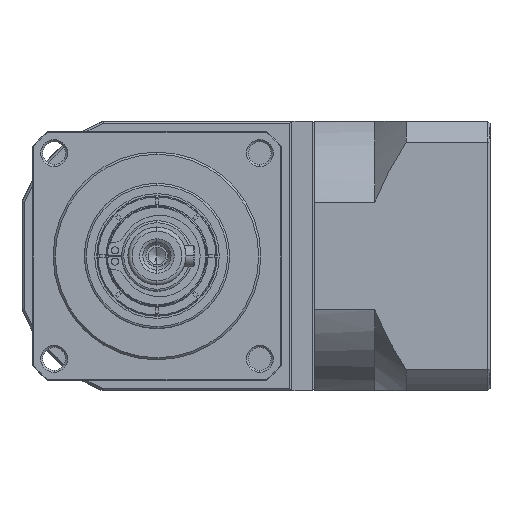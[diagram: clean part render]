
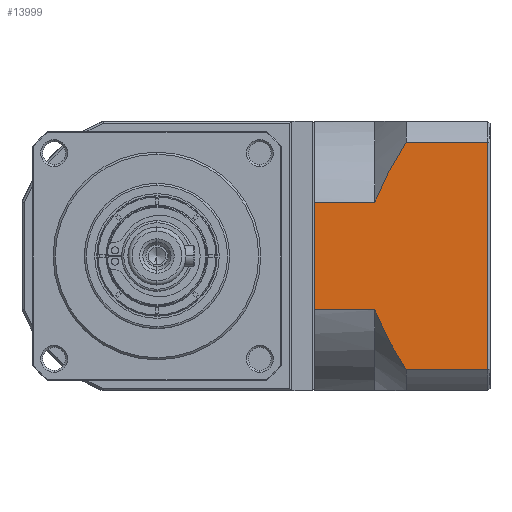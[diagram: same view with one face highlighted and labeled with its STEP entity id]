
A CAD part, left-side view. The second image highlights one B-rep face of the part: STEP entity #13999.
In plain terms, the highlighted planar face has unit normal (-1, 0, 0).
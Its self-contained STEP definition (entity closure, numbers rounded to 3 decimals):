
#2166 = CARTESIAN_POINT ( 'NONE',  ( -16.287, -57.668, -142.765 ) ) ;
#2489 = B_SPLINE_CURVE_WITH_KNOTS ( 'NONE', 3,
 ( #88323, #39023, #138035, #63965, #150469, #76403, #2166, #88876, #14568, #101407 ),
 .UNSPECIFIED., .F., .F.,
 ( 4, 2, 2, 2, 4 ),
 ( 0.101, 0.103, 0.105, 0.109, 0.117 ),
 .UNSPECIFIED. ) ;
#11449 = CARTESIAN_POINT ( 'NONE',  ( -16.287, -54.923, -150.928 ) ) ;
#13999 = ADVANCED_FACE ( 'NONE', ( #140450 ), #50366, .F. ) ;
#14568 = CARTESIAN_POINT ( 'NONE',  ( -16.287, -60.961, -148.66 ) ) ;
#15996 = CARTESIAN_POINT ( 'NONE',  ( -16.287, -62.423, -96.156 ) ) ;
#21891 = EDGE_CURVE ( 'NONE', #41242, #43284, #48625, .T. ) ;
#22916 = CARTESIAN_POINT ( 'NONE',  ( -16.287, -61.689, -97.294 ) ) ;
#23800 = VERTEX_POINT ( 'NONE', #71757 ) ;
#23909 = DIRECTION ( 'NONE',  ( 0., 1., 0. ) ) ;
#25925 = EDGE_CURVE ( 'NONE', #31629, #66622, #93408, .T. ) ;
#31248 = LINE ( 'NONE', #102655, #60299 ) ;
#31629 = VERTEX_POINT ( 'NONE', #53323 ) ;
#33646 = EDGE_CURVE ( 'NONE', #41242, #23800, #48647, .T. ) ;
#35413 = CARTESIAN_POINT ( 'NONE',  ( -16.287, -60.974, -98.445 ) ) ;
#36682 = CARTESIAN_POINT ( 'NONE',  ( -16.287, -40.423, -136.533 ) ) ;
#37539 = VECTOR ( 'NONE', #88333, 1000. ) ;
#39023 = CARTESIAN_POINT ( 'NONE',  ( -16.287, -55.161, -137.175 ) ) ;
#41242 = VERTEX_POINT ( 'NONE', #81825 ) ;
#41434 = LINE ( 'NONE', #87819, #37539 ) ;
#42595 = CARTESIAN_POINT ( 'NONE',  ( -16.287, -82.123, -156.042 ) ) ;
#43284 = VERTEX_POINT ( 'NONE', #144645 ) ;
#47885 = CARTESIAN_POINT ( 'NONE',  ( -16.287, -58.919, -101.966 ) ) ;
#48625 = LINE ( 'NONE', #42595, #143442 ) ;
#48647 = LINE ( 'NONE', #11449, #143473 ) ;
#49461 = CARTESIAN_POINT ( 'NONE',  ( -16.287, -54.923, -136.533 ) ) ;
#50366 = PLANE ( 'NONE',  #148964 ) ;
#53323 = CARTESIAN_POINT ( 'NONE',  ( -16.287, -40.423, -110.552 ) ) ;
#54950 = VERTEX_POINT ( 'NONE', #80326 ) ;
#57603 = CARTESIAN_POINT ( 'NONE',  ( -16.287, -40.423, -156.042 ) ) ;
#60299 = VECTOR ( 'NONE', #127456, 1000. ) ;
#60350 = CARTESIAN_POINT ( 'NONE',  ( -16.287, -55.865, -108.014 ) ) ;
#63338 = CARTESIAN_POINT ( 'NONE',  ( -16.287, -82.623, -156.042 ) ) ;
#63965 = CARTESIAN_POINT ( 'NONE',  ( -16.287, -55.939, -139.075 ) ) ;
#66622 = VERTEX_POINT ( 'NONE', #36682 ) ;
#67088 = EDGE_CURVE ( 'NONE', #97571, #54950, #132251, .T. ) ;
#71757 = CARTESIAN_POINT ( 'NONE',  ( -16.287, -62.423, -150.928 ) ) ;
#71894 = LINE ( 'NONE', #49461, #104913 ) ;
#73579 = CARTESIAN_POINT ( 'NONE',  ( -16.287, -54.923, -136.533 ) ) ;
#74206 = EDGE_CURVE ( 'NONE', #31629, #54950, #41434, .T. ) ;
#75831 = DIRECTION ( 'NONE',  ( 0., 1., 0. ) ) ;
#76216 = VERTEX_POINT ( 'NONE', #73579 ) ;
#76403 = CARTESIAN_POINT ( 'NONE',  ( -16.287, -57.063, -141.553 ) ) ;
#80326 = CARTESIAN_POINT ( 'NONE',  ( -16.287, -54.923, -110.552 ) ) ;
#81825 = CARTESIAN_POINT ( 'NONE',  ( -16.287, -82.123, -150.928 ) ) ;
#87539 = ORIENTED_EDGE ( 'NONE', *, *, #33646, .F. ) ;
#87819 = CARTESIAN_POINT ( 'NONE',  ( -16.287, -54.923, -110.552 ) ) ;
#88166 = EDGE_CURVE ( 'NONE', #97571, #43284, #31248, .T. ) ;
#88323 = CARTESIAN_POINT ( 'NONE',  ( -16.287, -54.923, -136.533 ) ) ;
#88333 = DIRECTION ( 'NONE',  ( 0., -1., 0. ) ) ;
#88876 = CARTESIAN_POINT ( 'NONE',  ( -16.287, -59.573, -146.346 ) ) ;
#91754 = ORIENTED_EDGE ( 'NONE', *, *, #21891, .T. ) ;
#93408 = LINE ( 'NONE', #57603, #126307 ) ;
#97203 = CARTESIAN_POINT ( 'NONE',  ( -16.287, -62.423, -96.156 ) ) ;
#97571 = VERTEX_POINT ( 'NONE', #15996 ) ;
#100554 = EDGE_CURVE ( 'NONE', #76216, #23800, #2489, .T. ) ;
#101407 = CARTESIAN_POINT ( 'NONE',  ( -16.287, -62.423, -150.928 ) ) ;
#102655 = CARTESIAN_POINT ( 'NONE',  ( -16.287, -54.923, -96.156 ) ) ;
#104063 = ORIENTED_EDGE ( 'NONE', *, *, #88166, .F. ) ;
#104913 = VECTOR ( 'NONE', #148446, 1000. ) ;
#107518 = ORIENTED_EDGE ( 'NONE', *, *, #67088, .T. ) ;
#122121 = CARTESIAN_POINT ( 'NONE',  ( -16.287, -59.59, -100.78 ) ) ;
#122228 = ORIENTED_EDGE ( 'NONE', *, *, #74206, .F. ) ;
#126307 = VECTOR ( 'NONE', #131790, 1000. ) ;
#127456 = DIRECTION ( 'NONE',  ( 0., -1., 0. ) ) ;
#130548 = ORIENTED_EDGE ( 'NONE', *, *, #25925, .T. ) ;
#131210 = EDGE_LOOP ( 'NONE', ( #87539, #91754, #104063, #107518, #122228, #130548, #133138, #159428 ) ) ;
#131790 = DIRECTION ( 'NONE',  ( 0., 0., -1. ) ) ;
#132251 = B_SPLINE_CURVE_WITH_KNOTS ( 'NONE', 3,
 ( #97203, #22916, #35413, #122121, #47885, #134477, #60350, #146869 ),
 .UNSPECIFIED., .F., .F.,
 ( 4, 2, 2, 4 ),
 ( 0.058, 0.062, 0.066, 0.074 ),
 .UNSPECIFIED. ) ;
#133138 = ORIENTED_EDGE ( 'NONE', *, *, #134802, .F. ) ;
#134477 = CARTESIAN_POINT ( 'NONE',  ( -16.287, -57.009, -105.562 ) ) ;
#134802 = EDGE_CURVE ( 'NONE', #76216, #66622, #71894, .T. ) ;
#138035 = CARTESIAN_POINT ( 'NONE',  ( -16.287, -55.413, -137.814 ) ) ;
#140450 = FACE_OUTER_BOUND ( 'NONE', #131210, .T. ) ;
#142108 = DIRECTION ( 'NONE',  ( 0., 0., 1. ) ) ;
#143442 = VECTOR ( 'NONE', #142108, 1000. ) ;
#143473 = VECTOR ( 'NONE', #23909, 1000. ) ;
#144645 = CARTESIAN_POINT ( 'NONE',  ( -16.287, -82.123, -96.156 ) ) ;
#146869 = CARTESIAN_POINT ( 'NONE',  ( -16.287, -54.923, -110.552 ) ) ;
#148446 = DIRECTION ( 'NONE',  ( 0., 1., 0. ) ) ;
#148964 = AXIS2_PLACEMENT_3D ( 'NONE', #63338, #149863, #75831 ) ;
#149863 = DIRECTION ( 'NONE',  ( 1., 0., 0. ) ) ;
#150469 = CARTESIAN_POINT ( 'NONE',  ( -16.287, -56.213, -139.699 ) ) ;
#159428 = ORIENTED_EDGE ( 'NONE', *, *, #100554, .T. ) ;
